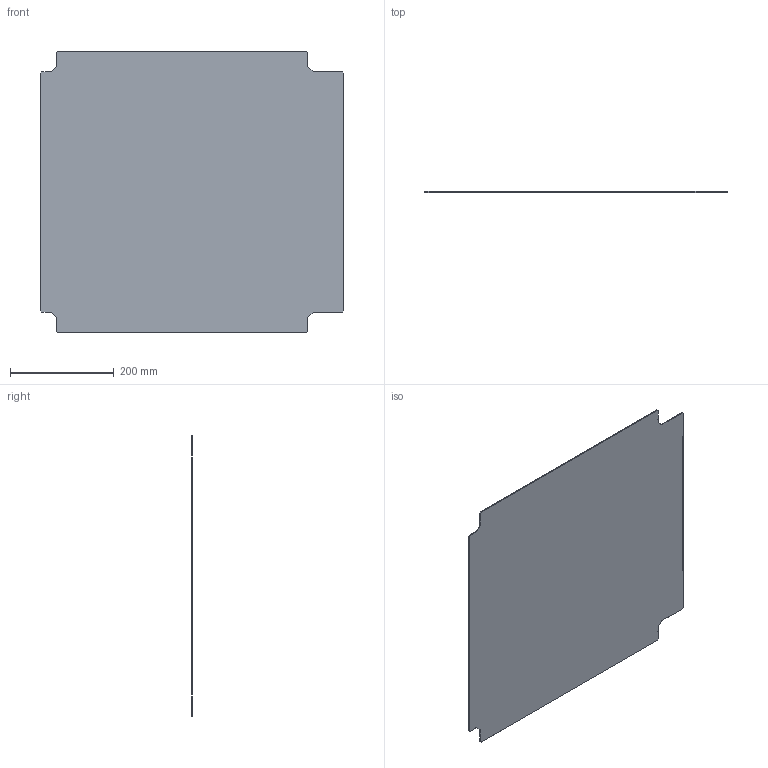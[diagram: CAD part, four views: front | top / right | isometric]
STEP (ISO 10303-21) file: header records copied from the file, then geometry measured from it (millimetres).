
FILE_DESCRIPTION(('CAx-IF Rec.Pracs.---Model Styling and Organization---1.2---2011-12-15','CAx-IF Rec.Pracs.---Geometric and Assembly Validation Properties---4.1---2014-06-16','CAx-IF Rec.Pracs.---PMI Polyline Presentation---2.0---2013-05-24'),'2;1');
FILE_NAME('R5SBC66.stp','2021-05-06T02:30:58+03:00',(''),(''),'STEP Interface 4.4 by CT CoreTechnologie','3D_Evolution4.4 by CT CoreTechnologie','');
FILE_SCHEMA(('AUTOMOTIVE_DESIGN { 1 0 10303 214 1 1 1 1 }'));
Length unit declared in the file: millimetre
Products named in the file (2): R5SBC66; RB.0504.00.00.0_-05
Assembly tree (1 placements, depth 2):
  R5SBC66
    RB.0504.00.00.0_-05
Bounding box: 583 x 1.5 x 543 mm (x, y, z)
Surface area: 621154.8 mm2 (no closed solid volume)
Topology: 0 solids, 1 shells, 26 faces, 72 edges, 48 vertices
Faces by surface type: plane 26
Entity records: 889 total; most frequent: CARTESIAN_POINT 148, ORIENTED_EDGE 144, DIRECTION 128, VECTOR 72, LINE 72, EDGE_CURVE 72, VERTEX_POINT 48, AXIS2_PLACEMENT_3D 28
